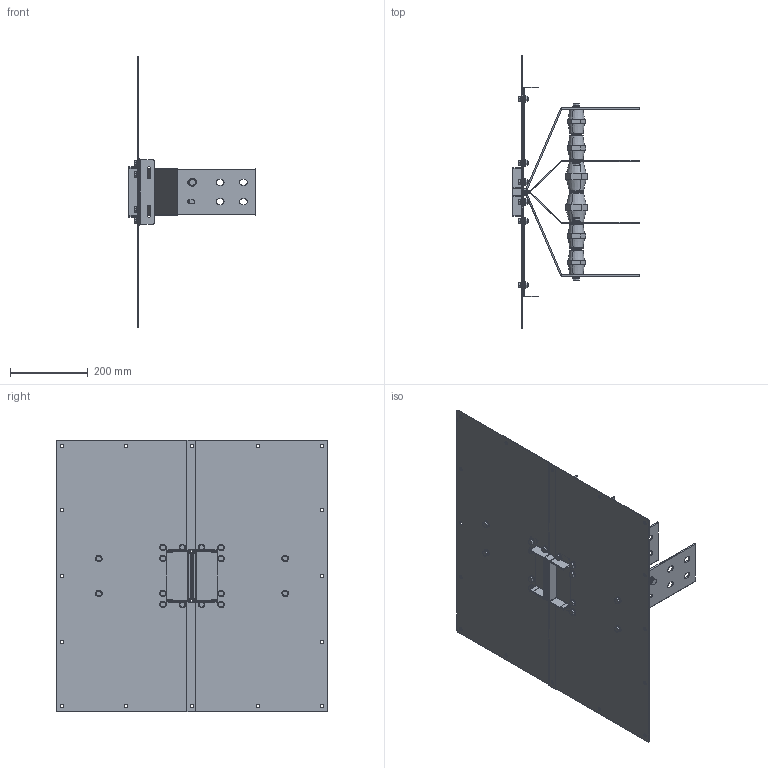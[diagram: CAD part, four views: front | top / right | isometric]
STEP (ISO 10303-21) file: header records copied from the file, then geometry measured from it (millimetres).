
FILE_DESCRIPTION(('CATIA V5 STEP','CAx-IF Rec.Pracs.--- Model Styling and Organization---1.5--- 2016-08-15','CAx-IF Rec.Pracs.---Supplemental Geometry---1.0---2011-11-01','CAx-IF Rec.Pracs.--- Composite Materials ---1.1---2010-07-15'),'2;1');
FILE_NAME('K:\COSCN 2011\32372311_RiduzioneSezioniBarre\03_Studio\__Modelli semplificati\XCP_UB semplificati per studi\XCP-HP_UB_4C_Pe_CRT_Assieme\Cu\XCP-HP_UB_4C_Pe_S_Assieme - 1000A Cu_CRT\XCP-HP_UB_4C_Pe_S_Assieme - 1000A Cu_CRT.stp','2025-05-12T11:40:53+00:00',('Utente Bticino'),('Bticino S.p.A.'),'CATIA Version 5-6 Release 2020 SP5','CATIA V5 STEP AP214 v2','none');
FILE_SCHEMA(('AUTOMOTIVE_DESIGN { 1 0 10303 214 1 1 1 1 }'));
Length unit declared in the file: millimetre
Products named in the file (20): XCP-HP_UB_4C_Pe_S_Assieme - 1000A Cu_CRT; XCP-HP_UB_4C_Pe_S_PaccoBarre_1000A Cu_CRT; XCP-HP_UB_4C_Pe_S_Lamiere_1000A Cu_CRT; Ass_M10x25.1; 00740025 M10x25 UNI5739; Rondella spac M10 UNI 1751; 00750005; 130006; 130184; 130006_1; 130184_1; 130006_2; 130006_3; 00750033 - RONDELLA PIANA 4.8 D.12 UNI 6592 ZB; 00750033 - RONDELLA PIANA 4.8 D.12 UNI 6592 ZB_1; 00750033 - RONDELLA PIANA 4.8 D.12 UNI 6592 ZB_2; Viteria UB H130; Ass Vite+dado M8; Steel hex flanged SCREW M12x16; Steel hex flanged NUT M8
Assembly tree (39 placements, depth 4):
  XCP-HP_UB_4C_Pe_S_Assieme - 1000A Cu_CRT
    XCP-HP_UB_4C_Pe_S_PaccoBarre_1000A Cu_CRT
    XCP-HP_UB_4C_Pe_S_Lamiere_1000A Cu_CRT
    Ass_M10x25.1  x6
      00740025 M10x25 UNI5739
      Rondella spac M10 UNI 1751
      00750005
    130006
    130184
    130006_1
    130184_1
    130006_2
    130006_3
    00750033 - RONDELLA PIANA 4.8 D.12 UNI 6592 ZB
    00750033 - RONDELLA PIANA 4.8 D.12 UNI 6592 ZB_1
    00750033 - RONDELLA PIANA 4.8 D.12 UNI 6592 ZB_2
    Viteria UB H130
      Ass Vite+dado M8  x16
        Steel hex flanged SCREW M12x16
        Steel hex flanged NUT M8
Bounding box: 325 x 700 x 700 mm (x, y, z)
Volume: 2450338.9 mm3; surface area: 1802614.3 mm2
Topology: 73 solids, 73 shells, 1660 faces, 3976 edges, 2500 vertices
Faces by surface type: plane 728, cylinder 492, cone 200, bspline 176, torus 64
Entity records: 23768 total; most frequent: CARTESIAN_POINT 5192, ORIENTED_EDGE 3944, DIRECTION 3114, EDGE_CURVE 1972, AXIS2_PLACEMENT_3D 1368, VERTEX_POINT 1260, VECTOR 1128, LINE 1128
